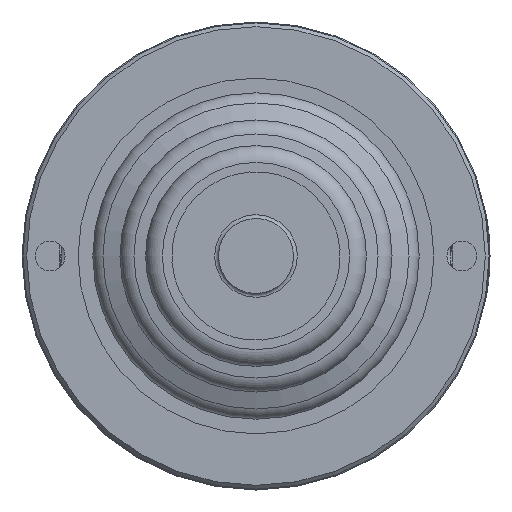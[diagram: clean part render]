
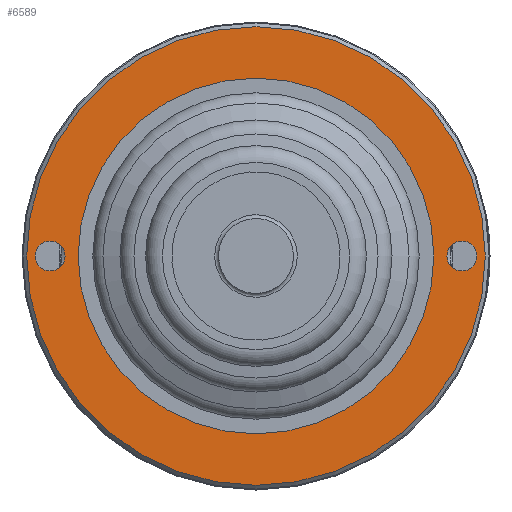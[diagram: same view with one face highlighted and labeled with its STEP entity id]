
A CAD part, front view. The second image highlights one B-rep face of the part: STEP entity #6589.
In plain terms, the highlighted planar face has unit normal (0, -1, 0).
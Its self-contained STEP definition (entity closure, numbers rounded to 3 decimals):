
#270=CIRCLE('',#6891,9.5);
#275=CIRCLE('',#6899,0.8);
#278=CIRCLE('',#6904,0.8);
#282=CIRCLE('',#6912,12.25);
#1329=VERTEX_POINT('',#11253);
#1336=VERTEX_POINT('',#11270);
#1341=VERTEX_POINT('',#11292);
#1344=VERTEX_POINT('',#11313);
#3130=EDGE_CURVE('',#1329,#1329,#270,.T.);
#3138=EDGE_CURVE('',#1336,#1336,#275,.T.);
#3145=EDGE_CURVE('',#1341,#1341,#278,.T.);
#3151=EDGE_CURVE('',#1344,#1344,#282,.T.);
#4824=ORIENTED_EDGE('',*,*,#3130,.T.);
#4825=ORIENTED_EDGE('',*,*,#3138,.T.);
#4826=ORIENTED_EDGE('',*,*,#3145,.T.);
#4827=ORIENTED_EDGE('',*,*,#3151,.F.);
#5505=EDGE_LOOP('',(#4824));
#5506=EDGE_LOOP('',(#4825));
#5507=EDGE_LOOP('',(#4826));
#5508=EDGE_LOOP('',(#4827));
#6085=FACE_BOUND('',#5505,.T.);
#6086=FACE_BOUND('',#5506,.T.);
#6087=FACE_BOUND('',#5507,.T.);
#6088=FACE_BOUND('',#5508,.T.);
#6589=ADVANCED_FACE('',(#6085,#6086,#6087,#6088),#12015,.F.);
#6891=AXIS2_PLACEMENT_3D('',#11252,#7793,#7794);
#6899=AXIS2_PLACEMENT_3D('',#11269,#7809,#7810);
#6904=AXIS2_PLACEMENT_3D('',#11291,#7821,#7822);
#6911=AXIS2_PLACEMENT_3D('',#11311,#7835,$);
#6912=AXIS2_PLACEMENT_3D('',#11312,#7836,#7837);
#7793=DIRECTION('',(0.,1.,0.));
#7794=DIRECTION('',(9.5,0.,0.));
#7809=DIRECTION('',(0.,1.,0.));
#7810=DIRECTION('',(0.,0.,0.8));
#7821=DIRECTION('',(0.,1.,0.));
#7822=DIRECTION('',(0.,0.,0.8));
#7835=DIRECTION('',(0.,1.,0.));
#7836=DIRECTION('',(0.,1.,0.));
#7837=DIRECTION('',(-12.25,0.,0.));
#11252=CARTESIAN_POINT('',(0.,-28.163,0.));
#11253=CARTESIAN_POINT('',(9.5,-28.163,0.));
#11269=CARTESIAN_POINT('',(11.,-28.163,0.));
#11270=CARTESIAN_POINT('',(11.,-28.163,0.8));
#11291=CARTESIAN_POINT('',(-11.,-28.163,0.));
#11292=CARTESIAN_POINT('',(-11.,-28.163,0.8));
#11311=CARTESIAN_POINT('',(0.,-28.163,0.));
#11312=CARTESIAN_POINT('',(0.,-28.163,0.));
#11313=CARTESIAN_POINT('',(12.25,-28.163,0.));
#12015=PLANE('',#6911);
